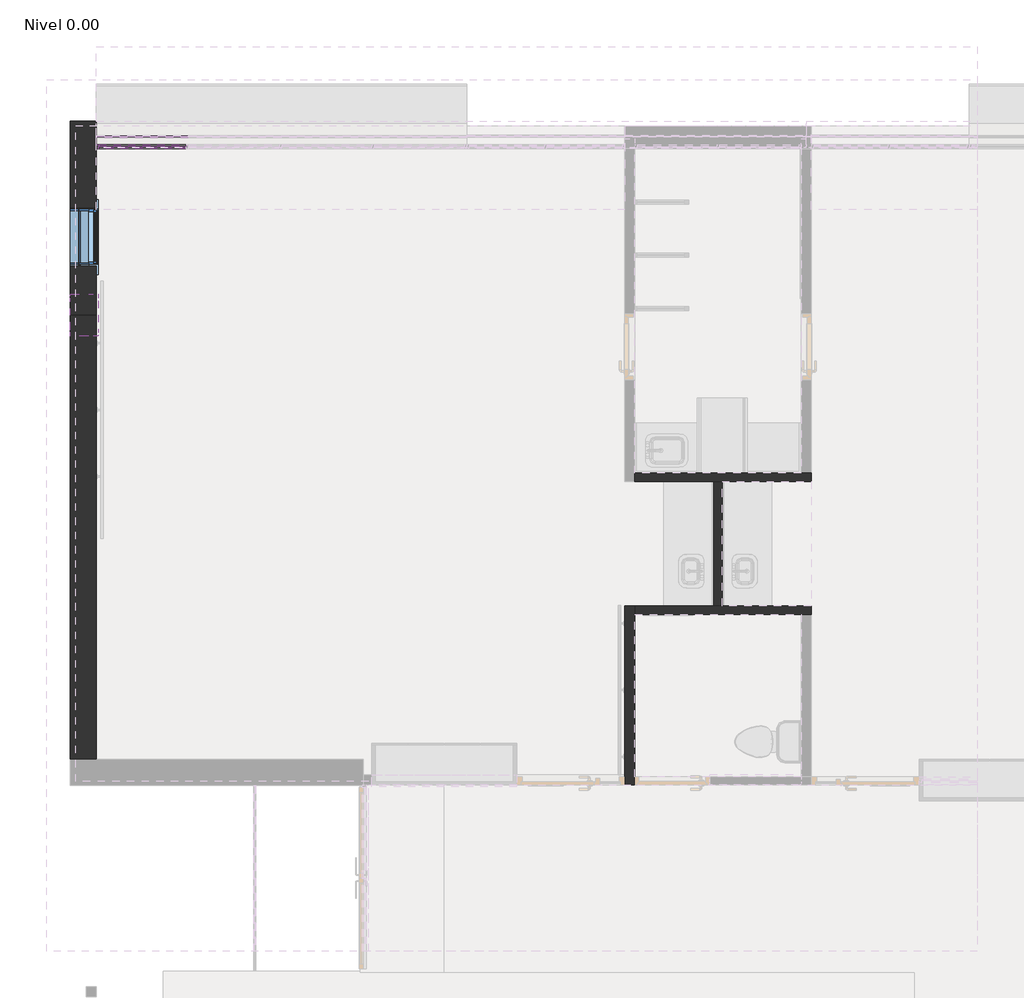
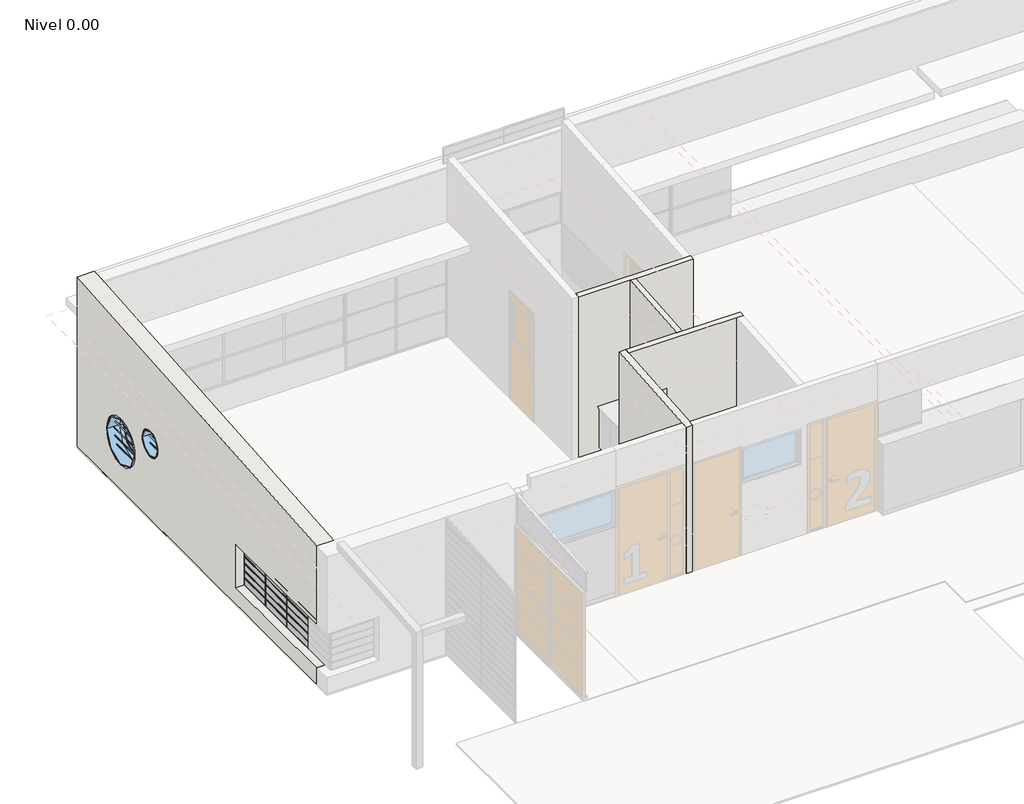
# One storey, part 12 of 27: 71 members, 34 plates, 5 walls, 2 windows.
"""IFC4 building model written with IfcOpenShell, lengths in millimetres."""

from ifc_helpers import new_model, si_unit, frame, origin, place, context, project, spatial, polyline, circle_curve, outline, extrude, faceted_brep, transform, mapped, element, save
from ifc_brep_helpers import plane_surface, revolved_surface, advanced_brep
from components import circular_mullion_0549192e, circular_mullion_b40c2762, l_corner_mullion_decce2e3, l_corner_mullion_d27054f3, rectangular_mullion_434fb2f1, rectangular_mullion_8dc43bb9, rectangular_mullion_919e1dbe, rectangular_mullion_f7ba8490, rectangular_mullion_22e3ac1e, rectangular_mullion_550d9bc0, rectangular_mullion_9fa35bb9, rectangular_mullion_ea82ce8c, rectangular_mullion_f981cff7, system_panel_116926c9, system_panel_03c61958, system_panel_5f4a1210, system_panel_862f567c, system_panel_glazed_c627329a, system_panel_glazed_802ec0be, system_panel_glazed_a2d9e6c2, window_1ec73767, window_5c5b8207

model = new_model("IFC4")

# Units and contexts
model_context = context("Model", 3, world=origin())
ifc_project = project(units=[si_unit("LENGTHUNIT", "METRE", prefix="MILLI")], contexts=[model_context])

# Site, building, storey
site = spatial("IfcSite", under=ifc_project)
building = spatial("IfcBuilding", under=site)
storey = spatial("IfcBuildingStorey", under=building, Name="Nivel 0.00", Elevation=0.0)

# Members
placement = place(None, origin())
circular_mullion_shape = circular_mullion_0549192e(model_context)
element("IfcMember", 1, ObjectType="Circular Mullion : ARQ_HERR_16mm", at=placement, inside=storey, context=model_context, shape_type="MappedRepresentation", body=[
    mapped(circular_mullion_shape, transform((-15799.8995201, 6959.43912, 645.4545455), x_axis=(0.0, 0.0, 1.0), y_axis=(0.0, 1.0, 0.0), z_axis=(-1.0, 0.0, 0.0))),
])
element("IfcMember", 2, ObjectType="Circular Mullion : ARQ_HERR_16mm", at=placement, inside=storey, context=model_context, shape_type="MappedRepresentation", body=[
    mapped(circular_mullion_shape, transform((-15799.8995201, 6959.43912, 790.9090909), x_axis=(0.0, 0.0, 1.0), y_axis=(0.0, 1.0, 0.0), z_axis=(-1.0, 0.0, 0.0))),
])
element("IfcMember", 3, ObjectType="Circular Mullion : ARQ_HERR_16mm", at=placement, inside=storey, context=model_context, shape_type="MappedRepresentation", body=[
    mapped(circular_mullion_shape, transform((-15799.8995201, 6959.43912, 936.3636364), x_axis=(0.0, 0.0, 1.0), y_axis=(0.0, 1.0, 0.0), z_axis=(-1.0, 0.0, 0.0))),
])
circular_mullion_2_shape = circular_mullion_b40c2762(model_context)
element("IfcMember", 4, ObjectType="Circular Mullion : ARQ_HERR_16mm", at=placement, inside=storey, context=model_context, shape_type="MappedRepresentation", body=[
    mapped(circular_mullion_2_shape, transform((-15963.3995201, 1371.5671199, 441.6666667), x_axis=(0.0, 0.0, 1.0), y_axis=(-1.0, 0.0, 0.0), z_axis=(0.0, -1.0, 0.0))),
])
element("IfcMember", 5, ObjectType="Circular Mullion : ARQ_HERR_16mm", at=placement, inside=storey, context=model_context, shape_type="MappedRepresentation", body=[
    mapped(circular_mullion_2_shape, transform((-15963.3995201, 686.1911132, 441.6666667), x_axis=(0.0, 0.0, 1.0), y_axis=(-1.0, 0.0, 0.0), z_axis=(0.0, -1.0, 0.0))),
])
element("IfcMember", 6, ObjectType="Circular Mullion : ARQ_HERR_16mm", at=placement, inside=storey, context=model_context, shape_type="MappedRepresentation", body=[
    mapped(circular_mullion_2_shape, transform((-15963.3995201, 0.8151066, 441.6666667), x_axis=(0.0, 0.0, 1.0), y_axis=(-1.0, 0.0, 0.0), z_axis=(0.0, -1.0, 0.0))),
])
element("IfcMember", 7, ObjectType="Circular Mullion : ARQ_HERR_16mm", at=placement, inside=storey, context=model_context, shape_type="MappedRepresentation", body=[
    mapped(circular_mullion_2_shape, transform((-15963.3995201, 1371.5671199, 583.3333333), x_axis=(0.0, 0.0, 1.0), y_axis=(-1.0, 0.0, 0.0), z_axis=(0.0, -1.0, 0.0))),
])
element("IfcMember", 8, ObjectType="Circular Mullion : ARQ_HERR_16mm", at=placement, inside=storey, context=model_context, shape_type="MappedRepresentation", body=[
    mapped(circular_mullion_2_shape, transform((-15963.3995201, 686.1911132, 583.3333333), x_axis=(0.0, 0.0, 1.0), y_axis=(-1.0, 0.0, 0.0), z_axis=(0.0, -1.0, 0.0))),
])
element("IfcMember", 9, ObjectType="Circular Mullion : ARQ_HERR_16mm", at=placement, inside=storey, context=model_context, shape_type="MappedRepresentation", body=[
    mapped(circular_mullion_2_shape, transform((-15963.3995201, 0.8151066, 583.3333333), x_axis=(0.0, 0.0, 1.0), y_axis=(-1.0, 0.0, 0.0), z_axis=(0.0, -1.0, 0.0))),
])
element("IfcMember", 10, ObjectType="Circular Mullion : ARQ_HERR_16mm", at=placement, inside=storey, context=model_context, shape_type="MappedRepresentation", body=[
    mapped(circular_mullion_2_shape, transform((-15963.3995201, 1371.5671199, 725.0), x_axis=(0.0, 0.0, 1.0), y_axis=(-1.0, 0.0, 0.0), z_axis=(0.0, -1.0, 0.0))),
])
element("IfcMember", 11, ObjectType="Circular Mullion : ARQ_HERR_16mm", at=placement, inside=storey, context=model_context, shape_type="MappedRepresentation", body=[
    mapped(circular_mullion_2_shape, transform((-15963.3995201, 686.1911132, 725.0), x_axis=(0.0, 0.0, 1.0), y_axis=(-1.0, 0.0, 0.0), z_axis=(0.0, -1.0, 0.0))),
])
element("IfcMember", 12, ObjectType="Circular Mullion : ARQ_HERR_16mm", at=placement, inside=storey, context=model_context, shape_type="MappedRepresentation", body=[
    mapped(circular_mullion_2_shape, transform((-15963.3995201, 0.8151066, 725.0), x_axis=(0.0, 0.0, 1.0), y_axis=(-1.0, 0.0, 0.0), z_axis=(0.0, -1.0, 0.0))),
])
element("IfcMember", 13, ObjectType="Circular Mullion : ARQ_HERR_16mm", at=placement, inside=storey, context=model_context, shape_type="MappedRepresentation", body=[
    mapped(circular_mullion_2_shape, transform((-15963.3995201, 1371.5671199, 866.6666667), x_axis=(0.0, 0.0, 1.0), y_axis=(-1.0, 0.0, 0.0), z_axis=(0.0, -1.0, 0.0))),
])
element("IfcMember", 14, ObjectType="Circular Mullion : ARQ_HERR_16mm", at=placement, inside=storey, context=model_context, shape_type="MappedRepresentation", body=[
    mapped(circular_mullion_2_shape, transform((-15963.3995201, 686.1911132, 866.6666667), x_axis=(0.0, 0.0, 1.0), y_axis=(-1.0, 0.0, 0.0), z_axis=(0.0, -1.0, 0.0))),
])
element("IfcMember", 15, ObjectType="Circular Mullion : ARQ_HERR_16mm", at=placement, inside=storey, context=model_context, shape_type="MappedRepresentation", body=[
    mapped(circular_mullion_2_shape, transform((-15963.3995201, 0.8151066, 866.6666667), x_axis=(0.0, 0.0, 1.0), y_axis=(-1.0, 0.0, 0.0), z_axis=(0.0, -1.0, 0.0))),
])
element("IfcMember", 16, ObjectType="Circular Mullion : ARQ_HERR_16mm", at=placement, inside=storey, context=model_context, shape_type="MappedRepresentation", body=[
    mapped(circular_mullion_2_shape, transform((-15963.3995201, 1371.5671199, 1008.3333333), x_axis=(0.0, 0.0, 1.0), y_axis=(-1.0, 0.0, 0.0), z_axis=(0.0, -1.0, 0.0))),
])
element("IfcMember", 17, ObjectType="Circular Mullion : ARQ_HERR_16mm", at=placement, inside=storey, context=model_context, shape_type="MappedRepresentation", body=[
    mapped(circular_mullion_2_shape, transform((-15963.3995201, 686.1911132, 1008.3333333), x_axis=(0.0, 0.0, 1.0), y_axis=(-1.0, 0.0, 0.0), z_axis=(0.0, -1.0, 0.0))),
])
element("IfcMember", 18, ObjectType="Circular Mullion : ARQ_HERR_16mm", at=placement, inside=storey, context=model_context, shape_type="MappedRepresentation", body=[
    mapped(circular_mullion_2_shape, transform((-15963.3995201, 0.8151066, 1008.3333333), x_axis=(0.0, 0.0, 1.0), y_axis=(-1.0, 0.0, 0.0), z_axis=(0.0, -1.0, 0.0))),
])
l_corner_mullion_shape = l_corner_mullion_decce2e3(model_context)
element("IfcMember", 19, ObjectType="L Corner Mullion : ARQ_HERR_15X6mm", at=placement, inside=storey, context=model_context, shape_type="MappedRepresentation", body=[
    mapped(l_corner_mullion_shape, transform((-15799.8995201, 6959.43912, 2100.0), x_axis=(0.0, 0.0, 1.0), y_axis=(0.0, 1.0, 0.0), z_axis=(-1.0, 0.0, 0.0))),
])
l_corner_mullion_2_shape = l_corner_mullion_d27054f3(model_context)
element("IfcMember", 20, ObjectType="L Corner Mullion : ARQ_HERR_15X6mm", at=placement, inside=storey, context=model_context, shape_type="MappedRepresentation", body=[
    mapped(l_corner_mullion_2_shape, transform((-15963.3995201, 1371.5671199, 1150.0), x_axis=(0.0, 0.0, 1.0), y_axis=(-1.0, 0.0, 0.0), z_axis=(0.0, -1.0, 0.0))),
])
element("IfcMember", 21, ObjectType="L Corner Mullion : ARQ_HERR_15X6mm", at=placement, inside=storey, context=model_context, shape_type="MappedRepresentation", body=[
    mapped(l_corner_mullion_2_shape, transform((-15963.3995201, 686.1911132, 1150.0), x_axis=(0.0, 0.0, 1.0), y_axis=(-1.0, 0.0, 0.0), z_axis=(0.0, -1.0, 0.0))),
])
element("IfcMember", 22, ObjectType="L Corner Mullion : ARQ_HERR_15X6mm", at=placement, inside=storey, context=model_context, shape_type="MappedRepresentation", body=[
    mapped(l_corner_mullion_2_shape, transform((-15963.3995201, 0.8151066, 1150.0), x_axis=(0.0, 0.0, 1.0), y_axis=(-1.0, 0.0, 0.0), z_axis=(0.0, -1.0, 0.0))),
])
element("IfcMember", 23, ObjectType="L Corner Mullion : ARQ_HERR_15X6mm", at=placement, inside=storey, context=model_context, shape_type="MappedRepresentation", body=[
    mapped(l_corner_mullion_2_shape, transform((-15963.3995201, 2050.9431269, 300.0), x_axis=(0.0, 0.0, -1.0), y_axis=(-1.0, 0.0, 0.0), z_axis=(0.0, 1.0, 0.0))),
])
element("IfcMember", 24, ObjectType="L Corner Mullion : ARQ_HERR_15X6mm", at=placement, inside=storey, context=model_context, shape_type="MappedRepresentation", body=[
    mapped(l_corner_mullion_2_shape, transform((-15963.3995201, 1365.5671199, 300.0), x_axis=(0.0, 0.0, -1.0), y_axis=(-1.0, 0.0, 0.0), z_axis=(0.0, 1.0, 0.0))),
])
element("IfcMember", 25, ObjectType="L Corner Mullion : ARQ_HERR_15X6mm", at=placement, inside=storey, context=model_context, shape_type="MappedRepresentation", body=[
    mapped(l_corner_mullion_2_shape, transform((-15963.3995201, 680.1911132, 300.0), x_axis=(0.0, 0.0, -1.0), y_axis=(-1.0, 0.0, 0.0), z_axis=(0.0, 1.0, 0.0))),
])
rectangular_mullion_shape = rectangular_mullion_434fb2f1(model_context)
element("IfcMember", 26, ObjectType="Rectangular Mullion : ARQ_TV_MULL_50x30mm", at=placement, inside=storey, context=model_context, shape_type="MappedRepresentation", body=[
    mapped(rectangular_mullion_shape, transform((-15830.2266664, 1415.0677232, 1150.0), x_axis=(0.0, 0.0, 1.0), y_axis=(-1.0, 0.0, 0.0), z_axis=(0.0, -1.0, 0.0))),
])
element("IfcMember", 27, ObjectType="Rectangular Mullion : ARQ_TV_MULL_50x30mm", at=placement, inside=storey, context=model_context, shape_type="MappedRepresentation", body=[
    mapped(rectangular_mullion_shape, transform((-15830.2266664, 773.1923198, 1150.0), x_axis=(0.0, 0.0, 1.0), y_axis=(-1.0, 0.0, 0.0), z_axis=(0.0, -1.0, 0.0))),
])
element("IfcMember", 28, ObjectType="Rectangular Mullion : ARQ_TV_MULL_50x30mm", at=placement, inside=storey, context=model_context, shape_type="MappedRepresentation", body=[
    mapped(rectangular_mullion_shape, transform((-15830.2266664, 131.3169164, 1150.0), x_axis=(0.0, 0.0, 1.0), y_axis=(-1.0, 0.0, 0.0), z_axis=(0.0, -1.0, 0.0))),
])
element("IfcMember", 29, ObjectType="Rectangular Mullion : ARQ_TV_MULL_50x30mm", at=placement, inside=storey, context=model_context, shape_type="MappedRepresentation", body=[
    mapped(rectangular_mullion_shape, transform((-15830.2266664, 2026.9431269, 300.0), x_axis=(0.0, 0.0, -1.0), y_axis=(-1.0, 0.0, 0.0), z_axis=(0.0, 1.0, 0.0))),
])
element("IfcMember", 30, ObjectType="Rectangular Mullion : ARQ_TV_MULL_50x30mm", at=placement, inside=storey, context=model_context, shape_type="MappedRepresentation", body=[
    mapped(rectangular_mullion_shape, transform((-15830.2266664, 1385.0677232, 300.0), x_axis=(0.0, 0.0, -1.0), y_axis=(-1.0, 0.0, 0.0), z_axis=(0.0, 1.0, 0.0))),
])
element("IfcMember", 31, ObjectType="Rectangular Mullion : ARQ_TV_MULL_50x30mm", at=placement, inside=storey, context=model_context, shape_type="MappedRepresentation", body=[
    mapped(rectangular_mullion_shape, transform((-15830.2266664, 743.1923198, 300.0), x_axis=(0.0, 0.0, -1.0), y_axis=(-1.0, 0.0, 0.0), z_axis=(0.0, 1.0, 0.0))),
])
element("IfcMember", 32, ObjectType="Rectangular Mullion : ARQ_TV_MULL_50x30mm", at=placement, inside=storey, context=model_context, shape_type="MappedRepresentation", body=[
    mapped(rectangular_mullion_shape, transform((-15830.2266664, 101.3169164, 300.0), x_axis=(0.0, 0.0, -1.0), y_axis=(-1.0, 0.0, 0.0), z_axis=(0.0, 1.0, 0.0))),
])
rectangular_mullion_2_shape = rectangular_mullion_8dc43bb9(model_context)
element("IfcMember", 33, ObjectType="Rectangular Mullion : ARQ_TV_MULL_50x30mm", at=placement, inside=storey, context=model_context, shape_type="MappedRepresentation", body=[
    mapped(rectangular_mullion_2_shape, transform((-15830.2266664, 1400.0677232, 300.0), x_axis=(0.0, -1.0, 0.0), y_axis=(-1.0, 0.0, 0.0), z_axis=(0.0, 0.0, -1.0))),
])
element("IfcMember", 34, ObjectType="Rectangular Mullion : ARQ_TV_MULL_50x30mm", at=placement, inside=storey, context=model_context, shape_type="MappedRepresentation", body=[
    mapped(rectangular_mullion_2_shape, transform((-15830.2266664, 758.1923198, 300.0), x_axis=(0.0, -1.0, 0.0), y_axis=(-1.0, 0.0, 0.0), z_axis=(0.0, 0.0, -1.0))),
])
element("IfcMember", 35, ObjectType="Rectangular Mullion : ARQ_TV_MULL_50x30mm", at=placement, inside=storey, context=model_context, shape_type="MappedRepresentation", body=[
    mapped(rectangular_mullion_2_shape, transform((-15830.2266664, 116.3169164, 300.0), x_axis=(0.0, -1.0, 0.0), y_axis=(-1.0, 0.0, 0.0), z_axis=(0.0, 0.0, -1.0))),
])
rectangular_mullion_3_shape = rectangular_mullion_919e1dbe(model_context)
element("IfcMember", 36, ObjectType="Rectangular Mullion : ARQ_TV_MULL_50x30mm", at=placement, inside=storey, context=model_context, shape_type="MappedRepresentation", body=[
    mapped(rectangular_mullion_3_shape, transform((-15830.2266664, 2056.9431269, 1150.0), x_axis=(0.0, 1.0, 0.0), y_axis=(-1.0, 0.0, 0.0), z_axis=(0.0, 0.0, 1.0))),
])
rectangular_mullion_4_shape = rectangular_mullion_f7ba8490(model_context)
element("IfcMember", 37, ObjectType="Rectangular Mullion : ARQ_TV_MULL_50x30mm", at=placement, inside=storey, context=model_context, shape_type="MappedRepresentation", body=[
    mapped(rectangular_mullion_4_shape, transform((-15805.8995201, 6833.6242925, 500.0), x_axis=(-1.0, 0.0, 0.0), y_axis=(0.0, 1.0, 0.0), z_axis=(0.0, 0.0, -1.0))),
])
element("IfcMember", 38, ObjectType="Rectangular Mullion : ARQ_TV_MULL_50x30mm", at=placement, inside=storey, context=model_context, shape_type="MappedRepresentation", body=[
    mapped(rectangular_mullion_4_shape, transform((-15805.8995201, 6833.6242925, 1033.3333333), x_axis=(-1.0, 0.0, 0.0), y_axis=(0.0, 1.0, 0.0), z_axis=(0.0, 0.0, -1.0))),
])
element("IfcMember", 39, ObjectType="Rectangular Mullion : ARQ_TV_MULL_50x30mm", at=placement, inside=storey, context=model_context, shape_type="MappedRepresentation", body=[
    mapped(rectangular_mullion_4_shape, transform((-15805.8995201, 6833.6242925, 1566.6666667), x_axis=(-1.0, 0.0, 0.0), y_axis=(0.0, 1.0, 0.0), z_axis=(0.0, 0.0, -1.0))),
])
rectangular_mullion_5_shape = rectangular_mullion_22e3ac1e(model_context)
element("IfcMember", 40, ObjectType="Rectangular Mullion : ARQ_TV_MULL_50x30mm", at=placement, inside=storey, context=model_context, shape_type="MappedRepresentation", body=[
    mapped(rectangular_mullion_5_shape, transform((-15775.8995201, 6833.6242925, 2100.0), x_axis=(0.0, 0.0, 1.0), y_axis=(0.0, 1.0, 0.0), z_axis=(-1.0, 0.0, 0.0))),
])
rectangular_mullion_6_shape = rectangular_mullion_550d9bc0(model_context)
element("IfcMember", 41, ObjectType="Rectangular Mullion : ARQ_TV_MULL_50x30mm", at=placement, inside=storey, context=model_context, shape_type="MappedRepresentation", body=[
    mapped(rectangular_mullion_6_shape, transform((-15775.8995201, 6833.6242925, 1033.3333333), x_axis=(0.0, 0.0, 1.0), y_axis=(0.0, 1.0, 0.0), z_axis=(-1.0, 0.0, 0.0))),
])
element("IfcMember", 42, ObjectType="Rectangular Mullion : ARQ_TV_MULL_50x30mm", at=placement, inside=storey, context=model_context, shape_type="MappedRepresentation", body=[
    mapped(rectangular_mullion_6_shape, transform((-15775.8995201, 6833.6242925, 1566.6666667), x_axis=(0.0, 0.0, 1.0), y_axis=(0.0, 1.0, 0.0), z_axis=(-1.0, 0.0, 0.0))),
])
rectangular_mullion_7_shape = rectangular_mullion_9fa35bb9(model_context)
element("IfcMember", 43, ObjectType="Rectangular Mullion : ARQ_HERR_15X6mm", at=placement, inside=storey, context=model_context, shape_type="MappedRepresentation", body=[
    mapped(rectangular_mullion_7_shape, transform((-15805.8995201, 6959.43912, 500.0), x_axis=(-1.0, 0.0, 0.0), y_axis=(0.0, 1.0, 0.0), z_axis=(0.0, 0.0, -1.0))),
])
element("IfcMember", 44, ObjectType="Rectangular Mullion : ARQ_HERR_15X6mm", at=placement, inside=storey, context=model_context, shape_type="MappedRepresentation", body=[
    mapped(rectangular_mullion_7_shape, transform((-15805.8995201, 6959.43912, 645.4545455), x_axis=(-1.0, 0.0, 0.0), y_axis=(0.0, 1.0, 0.0), z_axis=(0.0, 0.0, -1.0))),
])
element("IfcMember", 45, ObjectType="Rectangular Mullion : ARQ_HERR_15X6mm", at=placement, inside=storey, context=model_context, shape_type="MappedRepresentation", body=[
    mapped(rectangular_mullion_7_shape, transform((-15805.8995201, 6959.43912, 790.9090909), x_axis=(-1.0, 0.0, 0.0), y_axis=(0.0, 1.0, 0.0), z_axis=(0.0, 0.0, -1.0))),
])
element("IfcMember", 46, ObjectType="Rectangular Mullion : ARQ_HERR_15X6mm", at=placement, inside=storey, context=model_context, shape_type="MappedRepresentation", body=[
    mapped(rectangular_mullion_7_shape, transform((-15805.8995201, 6959.43912, 936.3636364), x_axis=(-1.0, 0.0, 0.0), y_axis=(0.0, 1.0, 0.0), z_axis=(0.0, 0.0, -1.0))),
])
element("IfcMember", 47, ObjectType="Rectangular Mullion : ARQ_HERR_15X6mm", at=placement, inside=storey, context=model_context, shape_type="MappedRepresentation", body=[
    mapped(rectangular_mullion_7_shape, transform((-15805.8995201, 6959.43912, 1081.8181818), x_axis=(-1.0, 0.0, 0.0), y_axis=(0.0, 1.0, 0.0), z_axis=(0.0, 0.0, -1.0))),
])
element("IfcMember", 48, ObjectType="Rectangular Mullion : ARQ_HERR_15X6mm", at=placement, inside=storey, context=model_context, shape_type="MappedRepresentation", body=[
    mapped(rectangular_mullion_7_shape, transform((-15805.8995201, 6959.43912, 1227.2727273), x_axis=(-1.0, 0.0, 0.0), y_axis=(0.0, 1.0, 0.0), z_axis=(0.0, 0.0, -1.0))),
])
element("IfcMember", 49, ObjectType="Rectangular Mullion : ARQ_HERR_15X6mm", at=placement, inside=storey, context=model_context, shape_type="MappedRepresentation", body=[
    mapped(rectangular_mullion_7_shape, transform((-15805.8995201, 6959.43912, 1372.7272727), x_axis=(-1.0, 0.0, 0.0), y_axis=(0.0, 1.0, 0.0), z_axis=(0.0, 0.0, -1.0))),
])
element("IfcMember", 50, ObjectType="Rectangular Mullion : ARQ_HERR_15X6mm", at=placement, inside=storey, context=model_context, shape_type="MappedRepresentation", body=[
    mapped(rectangular_mullion_7_shape, transform((-15805.8995201, 6959.43912, 1518.1818182), x_axis=(-1.0, 0.0, 0.0), y_axis=(0.0, 1.0, 0.0), z_axis=(0.0, 0.0, -1.0))),
])
element("IfcMember", 51, ObjectType="Rectangular Mullion : ARQ_HERR_15X6mm", at=placement, inside=storey, context=model_context, shape_type="MappedRepresentation", body=[
    mapped(rectangular_mullion_7_shape, transform((-15805.8995201, 6959.43912, 1663.6363636), x_axis=(-1.0, 0.0, 0.0), y_axis=(0.0, 1.0, 0.0), z_axis=(0.0, 0.0, -1.0))),
])
element("IfcMember", 52, ObjectType="Rectangular Mullion : ARQ_HERR_15X6mm", at=placement, inside=storey, context=model_context, shape_type="MappedRepresentation", body=[
    mapped(rectangular_mullion_7_shape, transform((-15805.8995201, 6959.43912, 1809.0909091), x_axis=(-1.0, 0.0, 0.0), y_axis=(0.0, 1.0, 0.0), z_axis=(0.0, 0.0, -1.0))),
])
element("IfcMember", 53, ObjectType="Rectangular Mullion : ARQ_HERR_15X6mm", at=placement, inside=storey, context=model_context, shape_type="MappedRepresentation", body=[
    mapped(rectangular_mullion_7_shape, transform((-15805.8995201, 6959.43912, 1954.5454545), x_axis=(-1.0, 0.0, 0.0), y_axis=(0.0, 1.0, 0.0), z_axis=(0.0, 0.0, -1.0))),
])
rectangular_mullion_8_shape = rectangular_mullion_ea82ce8c(model_context)
element("IfcMember", 54, ObjectType="Rectangular Mullion : ARQ_HERR_15X6mm", at=placement, inside=storey, context=model_context, shape_type="MappedRepresentation", body=[
    mapped(rectangular_mullion_8_shape, transform((-15963.3995201, 1368.5671199, 300.0), x_axis=(0.0, -1.0, 0.0), y_axis=(-1.0, 0.0, 0.0), z_axis=(0.0, 0.0, -1.0))),
])
element("IfcMember", 55, ObjectType="Rectangular Mullion : ARQ_HERR_15X6mm", at=placement, inside=storey, context=model_context, shape_type="MappedRepresentation", body=[
    mapped(rectangular_mullion_8_shape, transform((-15963.3995201, 683.1911132, 300.0), x_axis=(0.0, -1.0, 0.0), y_axis=(-1.0, 0.0, 0.0), z_axis=(0.0, 0.0, -1.0))),
])
element("IfcMember", 56, ObjectType="Rectangular Mullion : ARQ_HERR_15X6mm", at=placement, inside=storey, context=model_context, shape_type="MappedRepresentation", body=[
    mapped(rectangular_mullion_8_shape, transform((-15963.3995201, 1368.5671199, 441.6666667), x_axis=(0.0, -1.0, 0.0), y_axis=(-1.0, 0.0, 0.0), z_axis=(0.0, 0.0, -1.0))),
])
element("IfcMember", 57, ObjectType="Rectangular Mullion : ARQ_HERR_15X6mm", at=placement, inside=storey, context=model_context, shape_type="MappedRepresentation", body=[
    mapped(rectangular_mullion_8_shape, transform((-15963.3995201, 683.1911132, 441.6666667), x_axis=(0.0, -1.0, 0.0), y_axis=(-1.0, 0.0, 0.0), z_axis=(0.0, 0.0, -1.0))),
])
element("IfcMember", 58, ObjectType="Rectangular Mullion : ARQ_HERR_15X6mm", at=placement, inside=storey, context=model_context, shape_type="MappedRepresentation", body=[
    mapped(rectangular_mullion_8_shape, transform((-15963.3995201, 1368.5671199, 583.3333333), x_axis=(0.0, -1.0, 0.0), y_axis=(-1.0, 0.0, 0.0), z_axis=(0.0, 0.0, -1.0))),
])
element("IfcMember", 59, ObjectType="Rectangular Mullion : ARQ_HERR_15X6mm", at=placement, inside=storey, context=model_context, shape_type="MappedRepresentation", body=[
    mapped(rectangular_mullion_8_shape, transform((-15963.3995201, 683.1911132, 583.3333333), x_axis=(0.0, -1.0, 0.0), y_axis=(-1.0, 0.0, 0.0), z_axis=(0.0, 0.0, -1.0))),
])
element("IfcMember", 60, ObjectType="Rectangular Mullion : ARQ_HERR_15X6mm", at=placement, inside=storey, context=model_context, shape_type="MappedRepresentation", body=[
    mapped(rectangular_mullion_8_shape, transform((-15963.3995201, 1368.5671199, 725.0), x_axis=(0.0, -1.0, 0.0), y_axis=(-1.0, 0.0, 0.0), z_axis=(0.0, 0.0, -1.0))),
])
element("IfcMember", 61, ObjectType="Rectangular Mullion : ARQ_HERR_15X6mm", at=placement, inside=storey, context=model_context, shape_type="MappedRepresentation", body=[
    mapped(rectangular_mullion_8_shape, transform((-15963.3995201, 683.1911132, 725.0), x_axis=(0.0, -1.0, 0.0), y_axis=(-1.0, 0.0, 0.0), z_axis=(0.0, 0.0, -1.0))),
])
element("IfcMember", 62, ObjectType="Rectangular Mullion : ARQ_HERR_15X6mm", at=placement, inside=storey, context=model_context, shape_type="MappedRepresentation", body=[
    mapped(rectangular_mullion_8_shape, transform((-15963.3995201, 1368.5671199, 866.6666667), x_axis=(0.0, -1.0, 0.0), y_axis=(-1.0, 0.0, 0.0), z_axis=(0.0, 0.0, -1.0))),
])
element("IfcMember", 63, ObjectType="Rectangular Mullion : ARQ_HERR_15X6mm", at=placement, inside=storey, context=model_context, shape_type="MappedRepresentation", body=[
    mapped(rectangular_mullion_8_shape, transform((-15963.3995201, 683.1911132, 866.6666667), x_axis=(0.0, -1.0, 0.0), y_axis=(-1.0, 0.0, 0.0), z_axis=(0.0, 0.0, -1.0))),
])
element("IfcMember", 64, ObjectType="Rectangular Mullion : ARQ_HERR_15X6mm", at=placement, inside=storey, context=model_context, shape_type="MappedRepresentation", body=[
    mapped(rectangular_mullion_8_shape, transform((-15963.3995201, 1368.5671199, 1008.3333333), x_axis=(0.0, -1.0, 0.0), y_axis=(-1.0, 0.0, 0.0), z_axis=(0.0, 0.0, -1.0))),
])
element("IfcMember", 65, ObjectType="Rectangular Mullion : ARQ_HERR_15X6mm", at=placement, inside=storey, context=model_context, shape_type="MappedRepresentation", body=[
    mapped(rectangular_mullion_8_shape, transform((-15963.3995201, 683.1911132, 1008.3333333), x_axis=(0.0, -1.0, 0.0), y_axis=(-1.0, 0.0, 0.0), z_axis=(0.0, 0.0, -1.0))),
])
rectangular_mullion_9_shape = rectangular_mullion_f981cff7(model_context)
element("IfcMember", 66, ObjectType="Rectangular Mullion : ARQ_HERR_15X6mm", at=placement, inside=storey, context=model_context, shape_type="MappedRepresentation", body=[
    mapped(rectangular_mullion_9_shape, transform((-15963.3995201, 2056.9431269, 1150.0), x_axis=(0.0, 1.0, 0.0), y_axis=(-1.0, 0.0, 0.0), z_axis=(0.0, 0.0, 1.0))),
])
element("IfcMember", 67, ObjectType="Rectangular Mullion : ARQ_HERR_15X6mm", at=placement, inside=storey, context=model_context, shape_type="MappedRepresentation", body=[
    mapped(rectangular_mullion_9_shape, transform((-15963.3995201, 2056.9431269, 441.6666667), x_axis=(0.0, 1.0, 0.0), y_axis=(-1.0, 0.0, 0.0), z_axis=(0.0, 0.0, 1.0))),
])
element("IfcMember", 68, ObjectType="Rectangular Mullion : ARQ_HERR_15X6mm", at=placement, inside=storey, context=model_context, shape_type="MappedRepresentation", body=[
    mapped(rectangular_mullion_9_shape, transform((-15963.3995201, 2056.9431269, 583.3333333), x_axis=(0.0, 1.0, 0.0), y_axis=(-1.0, 0.0, 0.0), z_axis=(0.0, 0.0, 1.0))),
])
element("IfcMember", 69, ObjectType="Rectangular Mullion : ARQ_HERR_15X6mm", at=placement, inside=storey, context=model_context, shape_type="MappedRepresentation", body=[
    mapped(rectangular_mullion_9_shape, transform((-15963.3995201, 2056.9431269, 725.0), x_axis=(0.0, 1.0, 0.0), y_axis=(-1.0, 0.0, 0.0), z_axis=(0.0, 0.0, 1.0))),
])
element("IfcMember", 70, ObjectType="Rectangular Mullion : ARQ_HERR_15X6mm", at=placement, inside=storey, context=model_context, shape_type="MappedRepresentation", body=[
    mapped(rectangular_mullion_9_shape, transform((-15963.3995201, 2056.9431269, 866.6666667), x_axis=(0.0, 1.0, 0.0), y_axis=(-1.0, 0.0, 0.0), z_axis=(0.0, 0.0, 1.0))),
])
element("IfcMember", 71, ObjectType="Rectangular Mullion : ARQ_HERR_15X6mm", at=placement, inside=storey, context=model_context, shape_type="MappedRepresentation", body=[
    mapped(rectangular_mullion_9_shape, transform((-15963.3995201, 2056.9431269, 1008.3333333), x_axis=(0.0, 1.0, 0.0), y_axis=(-1.0, 0.0, 0.0), z_axis=(0.0, 0.0, 1.0))),
])

# Plates
system_panel_shape = system_panel_116926c9(model_context)
element("IfcPlate", 72, ObjectType="System Panel : VACÍO", at=placement, inside=storey, context=model_context, shape_type="MappedRepresentation", body=[
    mapped(system_panel_shape, transform((-15249.5558926, 6959.43912, 506.0), x_axis=(-1.0, 0.0, 0.0), y_axis=(0.0, -1.0, 0.0), z_axis=(0.0, 0.0, 1.0))),
])
element("IfcPlate", 73, ObjectType="System Panel : VACÍO", at=placement, inside=storey, context=model_context, shape_type="MappedRepresentation", body=[
    mapped(system_panel_shape, transform((-15249.5558926, 6959.43912, 1962.5454545), x_axis=(-1.0, 0.0, 0.0), y_axis=(0.0, -1.0, 0.0), z_axis=(0.0, 0.0, 1.0))),
])
system_panel_2_shape = system_panel_03c61958(model_context)
element("IfcPlate", 74, ObjectType="System Panel : VACÍO", at=placement, inside=storey, context=model_context, shape_type="MappedRepresentation", body=[
    mapped(system_panel_2_shape, transform((-15249.5558926, 6959.43912, 653.4545455), x_axis=(-1.0, 0.0, 0.0), y_axis=(0.0, -1.0, 0.0), z_axis=(0.0, 0.0, 1.0))),
])
element("IfcPlate", 75, ObjectType="System Panel : VACÍO", at=placement, inside=storey, context=model_context, shape_type="MappedRepresentation", body=[
    mapped(system_panel_2_shape, transform((-15249.5558926, 6959.43912, 798.9090909), x_axis=(-1.0, 0.0, 0.0), y_axis=(0.0, -1.0, 0.0), z_axis=(0.0, 0.0, 1.0))),
])
element("IfcPlate", 76, ObjectType="System Panel : VACÍO", at=placement, inside=storey, context=model_context, shape_type="MappedRepresentation", body=[
    mapped(system_panel_2_shape, transform((-15249.5558926, 6959.43912, 944.3636364), x_axis=(-1.0, 0.0, 0.0), y_axis=(0.0, -1.0, 0.0), z_axis=(0.0, 0.0, 1.0))),
])
element("IfcPlate", 77, ObjectType="System Panel : VACÍO", at=placement, inside=storey, context=model_context, shape_type="MappedRepresentation", body=[
    mapped(system_panel_2_shape, transform((-15249.5558926, 6959.43912, 1089.8181818), x_axis=(-1.0, 0.0, 0.0), y_axis=(0.0, -1.0, 0.0), z_axis=(0.0, 0.0, 1.0))),
])
element("IfcPlate", 78, ObjectType="System Panel : VACÍO", at=placement, inside=storey, context=model_context, shape_type="MappedRepresentation", body=[
    mapped(system_panel_2_shape, transform((-15249.5558926, 6959.43912, 1235.2727273), x_axis=(-1.0, 0.0, 0.0), y_axis=(0.0, -1.0, 0.0), z_axis=(0.0, 0.0, 1.0))),
])
element("IfcPlate", 79, ObjectType="System Panel : VACÍO", at=placement, inside=storey, context=model_context, shape_type="MappedRepresentation", body=[
    mapped(system_panel_2_shape, transform((-15249.5558926, 6959.43912, 1380.7272727), x_axis=(-1.0, 0.0, 0.0), y_axis=(0.0, -1.0, 0.0), z_axis=(0.0, 0.0, 1.0))),
])
element("IfcPlate", 80, ObjectType="System Panel : VACÍO", at=placement, inside=storey, context=model_context, shape_type="MappedRepresentation", body=[
    mapped(system_panel_2_shape, transform((-15249.5558926, 6959.43912, 1526.1818182), x_axis=(-1.0, 0.0, 0.0), y_axis=(0.0, -1.0, 0.0), z_axis=(0.0, 0.0, 1.0))),
])
element("IfcPlate", 81, ObjectType="System Panel : VACÍO", at=placement, inside=storey, context=model_context, shape_type="MappedRepresentation", body=[
    mapped(system_panel_2_shape, transform((-15249.5558926, 6959.43912, 1671.6363636), x_axis=(-1.0, 0.0, 0.0), y_axis=(0.0, -1.0, 0.0), z_axis=(0.0, 0.0, 1.0))),
])
element("IfcPlate", 82, ObjectType="System Panel : VACÍO", at=placement, inside=storey, context=model_context, shape_type="MappedRepresentation", body=[
    mapped(system_panel_2_shape, transform((-15249.5558926, 6959.43912, 1817.0909091), x_axis=(-1.0, 0.0, 0.0), y_axis=(0.0, -1.0, 0.0), z_axis=(0.0, 0.0, 1.0))),
])
system_panel_3_shape = system_panel_5f4a1210(model_context)
element("IfcPlate", 83, ObjectType="System Panel : VACÍO", at=placement, inside=storey, context=model_context, shape_type="MappedRepresentation", body=[
    mapped(system_panel_3_shape, transform((-15963.3995201, 1711.2551234, 306.0), x_axis=(0.0, -1.0, 0.0), y_axis=(1.0, 0.0, 0.0), z_axis=(0.0, 0.0, 1.0))),
])
element("IfcPlate", 84, ObjectType="System Panel : VACÍO", at=placement, inside=storey, context=model_context, shape_type="MappedRepresentation", body=[
    mapped(system_panel_3_shape, transform((-15963.3995201, 1025.8791166, 306.0), x_axis=(0.0, -1.0, 0.0), y_axis=(1.0, 0.0, 0.0), z_axis=(0.0, 0.0, 1.0))),
])
element("IfcPlate", 85, ObjectType="System Panel : VACÍO", at=placement, inside=storey, context=model_context, shape_type="MappedRepresentation", body=[
    mapped(system_panel_3_shape, transform((-15963.3995201, 340.5031099, 306.0), x_axis=(0.0, -1.0, 0.0), y_axis=(1.0, 0.0, 0.0), z_axis=(0.0, 0.0, 1.0))),
])
element("IfcPlate", 86, ObjectType="System Panel : VACÍO", at=placement, inside=storey, context=model_context, shape_type="MappedRepresentation", body=[
    mapped(system_panel_3_shape, transform((-15963.3995201, 1711.2551234, 1016.3333333), x_axis=(0.0, -1.0, 0.0), y_axis=(1.0, 0.0, 0.0), z_axis=(0.0, 0.0, 1.0))),
])
element("IfcPlate", 87, ObjectType="System Panel : VACÍO", at=placement, inside=storey, context=model_context, shape_type="MappedRepresentation", body=[
    mapped(system_panel_3_shape, transform((-15963.3995201, 1025.8791166, 1016.3333333), x_axis=(0.0, -1.0, 0.0), y_axis=(1.0, 0.0, 0.0), z_axis=(0.0, 0.0, 1.0))),
])
element("IfcPlate", 88, ObjectType="System Panel : VACÍO", at=placement, inside=storey, context=model_context, shape_type="MappedRepresentation", body=[
    mapped(system_panel_3_shape, transform((-15963.3995201, 340.5031099, 1016.3333333), x_axis=(0.0, -1.0, 0.0), y_axis=(1.0, 0.0, 0.0), z_axis=(0.0, 0.0, 1.0))),
])
system_panel_4_shape = system_panel_862f567c(model_context)
element("IfcPlate", 89, ObjectType="System Panel : VACÍO", at=placement, inside=storey, context=model_context, shape_type="MappedRepresentation", body=[
    mapped(system_panel_4_shape, transform((-15963.3995201, 1711.2551234, 449.6666667), x_axis=(0.0, -1.0, 0.0), y_axis=(1.0, 0.0, 0.0), z_axis=(0.0, 0.0, 1.0))),
])
element("IfcPlate", 90, ObjectType="System Panel : VACÍO", at=placement, inside=storey, context=model_context, shape_type="MappedRepresentation", body=[
    mapped(system_panel_4_shape, transform((-15963.3995201, 1025.8791166, 449.6666667), x_axis=(0.0, -1.0, 0.0), y_axis=(1.0, 0.0, 0.0), z_axis=(0.0, 0.0, 1.0))),
])
element("IfcPlate", 91, ObjectType="System Panel : VACÍO", at=placement, inside=storey, context=model_context, shape_type="MappedRepresentation", body=[
    mapped(system_panel_4_shape, transform((-15963.3995201, 340.5031099, 449.6666667), x_axis=(0.0, -1.0, 0.0), y_axis=(1.0, 0.0, 0.0), z_axis=(0.0, 0.0, 1.0))),
])
element("IfcPlate", 92, ObjectType="System Panel : VACÍO", at=placement, inside=storey, context=model_context, shape_type="MappedRepresentation", body=[
    mapped(system_panel_4_shape, transform((-15963.3995201, 1711.2551234, 591.3333333), x_axis=(0.0, -1.0, 0.0), y_axis=(1.0, 0.0, 0.0), z_axis=(0.0, 0.0, 1.0))),
])
element("IfcPlate", 93, ObjectType="System Panel : VACÍO", at=placement, inside=storey, context=model_context, shape_type="MappedRepresentation", body=[
    mapped(system_panel_4_shape, transform((-15963.3995201, 1025.8791166, 591.3333333), x_axis=(0.0, -1.0, 0.0), y_axis=(1.0, 0.0, 0.0), z_axis=(0.0, 0.0, 1.0))),
])
element("IfcPlate", 94, ObjectType="System Panel : VACÍO", at=placement, inside=storey, context=model_context, shape_type="MappedRepresentation", body=[
    mapped(system_panel_4_shape, transform((-15963.3995201, 340.5031099, 591.3333333), x_axis=(0.0, -1.0, 0.0), y_axis=(1.0, 0.0, 0.0), z_axis=(0.0, 0.0, 1.0))),
])
element("IfcPlate", 95, ObjectType="System Panel : VACÍO", at=placement, inside=storey, context=model_context, shape_type="MappedRepresentation", body=[
    mapped(system_panel_4_shape, transform((-15963.3995201, 1711.2551234, 733.0), x_axis=(0.0, -1.0, 0.0), y_axis=(1.0, 0.0, 0.0), z_axis=(0.0, 0.0, 1.0))),
])
element("IfcPlate", 96, ObjectType="System Panel : VACÍO", at=placement, inside=storey, context=model_context, shape_type="MappedRepresentation", body=[
    mapped(system_panel_4_shape, transform((-15963.3995201, 1025.8791166, 733.0), x_axis=(0.0, -1.0, 0.0), y_axis=(1.0, 0.0, 0.0), z_axis=(0.0, 0.0, 1.0))),
])
element("IfcPlate", 97, ObjectType="System Panel : VACÍO", at=placement, inside=storey, context=model_context, shape_type="MappedRepresentation", body=[
    mapped(system_panel_4_shape, transform((-15963.3995201, 340.5031099, 733.0), x_axis=(0.0, -1.0, 0.0), y_axis=(1.0, 0.0, 0.0), z_axis=(0.0, 0.0, 1.0))),
])
element("IfcPlate", 98, ObjectType="System Panel : VACÍO", at=placement, inside=storey, context=model_context, shape_type="MappedRepresentation", body=[
    mapped(system_panel_4_shape, transform((-15963.3995201, 1711.2551234, 874.6666667), x_axis=(0.0, -1.0, 0.0), y_axis=(1.0, 0.0, 0.0), z_axis=(0.0, 0.0, 1.0))),
])
element("IfcPlate", 99, ObjectType="System Panel : VACÍO", at=placement, inside=storey, context=model_context, shape_type="MappedRepresentation", body=[
    mapped(system_panel_4_shape, transform((-15963.3995201, 1025.8791166, 874.6666667), x_axis=(0.0, -1.0, 0.0), y_axis=(1.0, 0.0, 0.0), z_axis=(0.0, 0.0, 1.0))),
])
element("IfcPlate", 100, ObjectType="System Panel : VACÍO", at=placement, inside=storey, context=model_context, shape_type="MappedRepresentation", body=[
    mapped(system_panel_4_shape, transform((-15963.3995201, 340.5031099, 874.6666667), x_axis=(0.0, -1.0, 0.0), y_axis=(1.0, 0.0, 0.0), z_axis=(0.0, 0.0, 1.0))),
])
system_panel_glazed_shape = system_panel_glazed_c627329a(model_context)
element("IfcPlate", 101, ObjectType="System Panel : Glazed", at=placement, inside=storey, context=model_context, shape_type="MappedRepresentation", body=[
    mapped(system_panel_glazed_shape, transform((-15830.2266664, 1721.0054251, 330.0), x_axis=(0.0, -1.0, 0.0), y_axis=(1.0, 0.0, 0.0), z_axis=(0.0, 0.0, 1.0))),
])
element("IfcPlate", 102, ObjectType="System Panel : Glazed", at=placement, inside=storey, context=model_context, shape_type="MappedRepresentation", body=[
    mapped(system_panel_glazed_shape, transform((-15830.2266664, 1079.1300215, 330.0), x_axis=(0.0, -1.0, 0.0), y_axis=(1.0, 0.0, 0.0), z_axis=(0.0, 0.0, 1.0))),
])
system_panel_glazed_2_shape = system_panel_glazed_802ec0be(model_context)
element("IfcPlate", 103, ObjectType="System Panel : Glazed", at=placement, inside=storey, context=model_context, shape_type="MappedRepresentation", body=[
    mapped(system_panel_glazed_2_shape, transform((-15249.5558926, 6833.6242925, 530.0), x_axis=(-1.0, 0.0, 0.0), y_axis=(0.0, -1.0, 0.0), z_axis=(0.0, 0.0, 1.0))),
])
element("IfcPlate", 104, ObjectType="System Panel : Glazed", at=placement, inside=storey, context=model_context, shape_type="MappedRepresentation", body=[
    mapped(system_panel_glazed_2_shape, transform((-15249.5558926, 6833.6242925, 1581.6666667), x_axis=(-1.0, 0.0, 0.0), y_axis=(0.0, -1.0, 0.0), z_axis=(0.0, 0.0, 1.0))),
])
system_panel_glazed_3_shape = system_panel_glazed_a2d9e6c2(model_context)
element("IfcPlate", 105, ObjectType="System Panel : Glazed", at=placement, inside=storey, context=model_context, shape_type="MappedRepresentation", body=[
    mapped(system_panel_glazed_3_shape, transform((-15249.5558926, 6833.6242925, 1048.3333333), x_axis=(-1.0, 0.0, 0.0), y_axis=(0.0, -1.0, 0.0), z_axis=(0.0, 0.0, 1.0))),
])

# Walls
element("IfcWall", 106, ObjectType="ARQ_MUR_M01_315mm", at=placement, inside=storey, context=model_context, shape_type="AdvancedBrep", body=[
    advanced_brep(
    [(-15805.8995201, -533.0609004, -20.0), (-15805.8995201, 6809.43912, -20.0), (-15805.8995201, 7109.43912, -20.0), (-15805.8995201, 7139.4390418, -20.0), (-15805.8995201, 7139.4390418, 2100.0), (-15805.8995201, 7139.4390418, 3309.1000126), (-15805.8995201, 7089.4390418, 3305.0747211), (-15805.8995201, 6824.4390418, 3283.740676), (-15805.8995201, -533.0609004, 2691.4190328), (-15805.8995201, -533.0609004, 1150.0), (-15805.8995201, 2056.9431269, 1150.0), (-15805.8995201, 2056.9431269, 300.0), (-15805.8995201, -533.0609004, 300.0), (-15805.8995201, 5299.4390996, 920.0), (-15805.8995201, 6199.4390996, 920.0), (-15805.8995201, 4559.4390996, 1450.0), (-15805.8995201, 5059.4390996, 1450.0), (-16120.8995201, 7139.4390418, -20.0), (-16120.8995201, -533.0609004, -20.0), (-16120.8995201, -533.0609004, 300.0), (-16120.8995201, 2056.9431269, 300.0), (-16120.8995201, 2056.9431269, 1150.0), (-16120.8995201, -533.0609004, 1150.0), (-16120.8995201, -533.0609004, 2691.4190328), (-16120.8995201, 7139.4390418, 3309.1000126), (-16120.8995201, 5299.4390996, 920.0), (-16120.8995201, 6199.4390996, 920.0), (-16120.8995201, 4559.4390996, 1450.0), (-16120.8995201, 5059.4390996, 1450.0)],
    [
        (0, 1),
        (1, 2),
        (2, 3),
        (3, 4),
        (4, 5),
        (5, 6),
        (6, 7),
        (7, 8),
        (8, 9),
        (9, 10),
        (10, 11),
        (11, 12),
        (12, 0),
        (13, 14, circle_curve(frame((-15805.8995201, 5749.4390996, 920.0), z_axis=(-1.0, 0.0, 0.0), x_axis=(0.0, 1.0, 0.0)), 450.0)),
        (14, 13, circle_curve(frame((-15805.8995201, 5749.4390996, 920.0), z_axis=(-1.0, 0.0, 0.0), x_axis=(0.0, 1.0, 0.0)), 450.0)),
        (15, 16, circle_curve(frame((-15805.8995201, 4809.4390996, 1450.0), z_axis=(-1.0, 0.0, 0.0), x_axis=(0.0, 1.0, 0.0)), 250.0)),
        (16, 15, circle_curve(frame((-15805.8995201, 4809.4390996, 1450.0), z_axis=(-1.0, 0.0, 0.0), x_axis=(0.0, 1.0, 0.0)), 250.0)),
        (17, 18),
        (18, 19),
        (19, 20),
        (20, 21),
        (21, 22),
        (22, 23),
        (23, 24),
        (24, 17),
        (25, 26, circle_curve(frame((-16120.8995201, 5749.4390996, 920.0), z_axis=(1.0, 0.0, 0.0), x_axis=(0.0, 1.0, 0.0)), 450.0)),
        (26, 25, circle_curve(frame((-16120.8995201, 5749.4390996, 920.0), z_axis=(1.0, 0.0, 0.0), x_axis=(0.0, 1.0, 0.0)), 450.0)),
        (27, 28, circle_curve(frame((-16120.8995201, 4809.4390996, 1450.0), z_axis=(1.0, 0.0, 0.0), x_axis=(0.0, 1.0, 0.0)), 250.0)),
        (28, 27, circle_curve(frame((-16120.8995201, 4809.4390996, 1450.0), z_axis=(1.0, 0.0, 0.0), x_axis=(0.0, 1.0, 0.0)), 250.0)),
        (0, 18),
        (17, 3),
        (25, 13),
        (14, 26),
        (27, 15),
        (16, 28),
        (11, 20),
        (19, 12),
        (10, 21),
        (9, 22),
        (8, 23),
        (24, 5),
    ],
    [
        plane_surface(frame((-15805.8995201, -690.5609004, -20.0), z_axis=(1.0, 0.0, 0.0), x_axis=(0.0, 1.0, 0.0))),
        plane_surface(frame((-16120.8995201, -690.5609004, -20.0), z_axis=(-1.0, 0.0, 0.0), x_axis=(0.0, -1.0, 0.0))),
        plane_surface(frame((-15805.8995201, -690.5609004, -20.0), z_axis=(0.0, 0.0, -1.0), x_axis=(-1.0, 0.0, 0.0))),
        revolved_surface(polyline([(-15805.8995201, 6199.4390996, 920.0), (-16120.8995201, 6199.4390996, 920.0)]), (-16120.8995201, 5749.4390996, 920.0), (1.0, 0.0, 0.0)),
        revolved_surface(polyline([(-15805.8995201, 5059.4390996, 1450.0), (-16120.8995201, 5059.4390996, 1450.0)]), (-16120.8995201, 4809.4390996, 1450.0), (1.0, 0.0, 0.0)),
        plane_surface(frame((-16120.8995201, -854.4377923, 300.0), z_axis=(0.0, 0.0, 1.0), x_axis=(0.0, 1.0, 0.0))),
        plane_surface(frame((-15805.8995201, 2056.9431269, 1150.0), z_axis=(0.0, -1.0, 0.0), x_axis=(0.0, 0.0, -1.0))),
        plane_surface(frame((-16120.8995201, -854.4377923, 1150.0), z_axis=(0.0, 0.0, -1.0), x_axis=(0.0, -1.0, 0.0))),
        plane_surface(frame((-12535.5641562, -533.0609004, -20.0), z_axis=(0.0, -1.0, 0.0), x_axis=(-1.0, 0.0, 0.0))),
        plane_surface(frame((-7231.7828228, 7139.4390418, 2100.0), z_axis=(0.0, 1.0, 0.0), x_axis=(-1.0, 0.0, 0.0))),
        plane_surface(frame((-8594.890446, -7374.4790212, 2140.6449852), z_axis=(0.0, -0.08024620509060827, 0.9967750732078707), x_axis=(0.0, -0.9967750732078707, -0.08024620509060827))),
    ],
    [
        (0, [[1, 2, 3, 4, 5, 6, 7, 8, 9, 10, 11, 12, 13], [14, 15], [16, 17]]),
        (1, [[18, 19, 20, 21, 22, 23, 24, 25], [26, 27], [28, 29]]),
        (2, [[-3, -2, -1, 30, -18, 31]]),
        (3, [[-26, 32, -15, 33]]),
        (3, [[-27, -33, -14, -32]]),
        (4, [[-28, 34, -17, 35]]),
        (4, [[-29, -35, -16, -34]]),
        (5, [[36, -20, 37, -12]]),
        (6, [[38, -21, -36, -11]]),
        (7, [[-38, -10, 39, -22]]),
        (8, [[40, -23, -39, -9]]),
        (8, [[-30, -13, -37, -19]]),
        (9, [[-5, -4, -31, -25, 41]]),
        (10, [[-8, -7, -6, -41, -24, -40]]),
    ],
),
])
element("IfcWall", 107, ObjectType="ARQ_TAB_T02a_100mm", at=placement, inside=storey, context=model_context, shape_type="Brep", body=[
    faceted_brep([(-9335.5924627, 1209.3953137, -20.0), (-7335.5692854, 1209.3953137, -20.0), (-7215.5692854, 1209.3953137, -20.0), (-7215.5692854, 1209.3953137, 3032.3439895), (-7335.5692854, 1209.3953137, 3032.3439895), (-9335.5924627, 1209.3953137, 3032.3439895), (-9335.5924627, 1309.3953137, -20.0), (-9335.5924627, 1309.3953137, 3040.3945726), (-8385.569245, 1309.3953137, 3040.3945726), (-8285.569245, 1309.3953137, 3040.3945726), (-7215.5692854, 1309.3953137, 3040.3945726), (-7215.5692854, 1309.3953137, -20.0), (-8285.569245, 1309.3953137, -20.0), (-8385.569245, 1309.3953137, -20.0)], [[[0, 1, 2, 3, 4, 5]], [[6, 7, 8, 9, 10, 11, 12, 13]], [[2, 1, 0, 6, 13, 12, 11]], [[0, 5, 7, 6]], [[3, 2, 11, 10]], [[5, 4, 3, 10, 9, 8, 7]]]),
])
element("IfcWall", 108, ObjectType="ARQ_TAB_T02a_100mm", at=placement, inside=storey, context=model_context, shape_type="Brep", body=[
    faceted_brep([(-9335.5691805, 2809.3952268, -20.0), (-8385.569245, 2809.3952268, -20.0), (-8285.569245, 2809.3952268, -20.0), (-7215.5692731, 2809.3952268, -20.0), (-7215.5692731, 2809.3952268, 3161.1533113), (-8285.569245, 2809.3952268, 3161.1533113), (-8385.569245, 2809.3952268, 3161.1533113), (-9335.5691805, 2809.3952268, 3161.1533113), (-9335.5691805, 2909.3952268, -20.0), (-9335.5691805, 2909.3952268, 3169.2038944), (-7335.5692731, 2909.3952268, 3169.2038944), (-7215.5692731, 2909.3952268, 3169.2038944), (-7215.5692731, 2909.3952268, -20.0), (-7335.5692731, 2909.3952268, -20.0)], [[[0, 1, 2, 3, 4, 5, 6, 7]], [[8, 9, 10, 11, 12, 13]], [[3, 2, 1, 0, 8, 13, 12]], [[0, 7, 9, 8]], [[4, 3, 12, 11]], [[7, 6, 5, 4, 11, 10, 9]]]),
])
element("IfcWall", 109, ObjectType="ARQ_TAB_T02a_100mm", at=placement, inside=storey, context=model_context, shape_type="SweptSolid", body=[
    extrude(outline(polyline([(1309.3953137, -20.0), (1309.3953137, 3040.3945726), (2809.3952268, 3161.1533113), (2809.3952268, -20.0), (1309.3953137, -20.0)])), frame((-8385.569245, 0.0, 0.0), z_axis=(1.0, 0.0, 0.0), x_axis=(0.0, 1.0, 0.0)), (0.0, 0.0, 1.0), 100.0),
])
element("IfcWall", 110, ObjectType="ARQ_TAB_T02b_120mm", at=placement, inside=storey, context=model_context, shape_type="Brep", body=[
    faceted_brep([(-9335.5924627, -840.6078399, -20.0), (-9335.5924627, -740.6078399, -20.0), (-9335.5924627, 1209.3953137, -20.0), (-9335.5924627, 1309.3953137, -20.0), (-9335.5924627, 1309.3953137, 3040.3945726), (-9335.5924627, 1209.3953137, 3032.3439895), (-9335.5924627, -740.6078399, 2875.3573662), (-9335.5924627, -840.6078399, 2867.3067831), (-9335.5924627, -840.6078399, 2130.0), (-9335.5924627, -840.6078399, 0.0), (-9455.5924627, -840.6078399, -20.0), (-9455.5924627, -840.6078399, 0.0), (-9455.5924627, -840.6078399, 2150.0), (-9455.5924627, -840.6078399, 2867.3067831), (-9455.5924627, -720.6093113, 2876.9673643), (-9455.5924627, 1309.3953137, 3040.3945726), (-9455.5924627, 1309.3953137, -20.0), (-9455.5924627, -720.6093113, -20.0)], [[[0, 1, 2, 3, 4, 5, 6, 7, 8, 9]], [[10, 11, 12, 13, 14, 15, 16, 17]], [[3, 2, 1, 0, 10, 17, 16]], [[4, 3, 16, 15]], [[0, 9, 8, 7, 13, 12, 11, 10]], [[7, 6, 5, 4, 15, 14, 13]]]),
])

# Windows
window_shape = window_1ec73767(model_context)
element("IfcWindow", 111, ObjectType="VENTANA_CAÑO_900 : CAÑO_900mm", at=placement, inside=storey, context=model_context, shape_type="MappedRepresentation", body=[
    mapped(window_shape, transform((-15963.3995201, 5749.4390996, -430.0), x_axis=(0.0, 1.0, 0.0), y_axis=(-1.0, 0.0, 0.0), z_axis=(0.0, 0.0, 1.0))),
])
window_2_shape = window_5c5b8207(model_context)
element("IfcWindow", 112, ObjectType="VENTANA_CAÑO_500 : CAÑO_500mm", at=placement, inside=storey, context=model_context, shape_type="MappedRepresentation", body=[
    mapped(window_2_shape, transform((-15963.3995201, 4809.4390996, 0.0), x_axis=(0.0, 1.0, 0.0), y_axis=(-1.0, 0.0, 0.0), z_axis=(0.0, 0.0, 1.0))),
])

save(model, "model.ifc")
